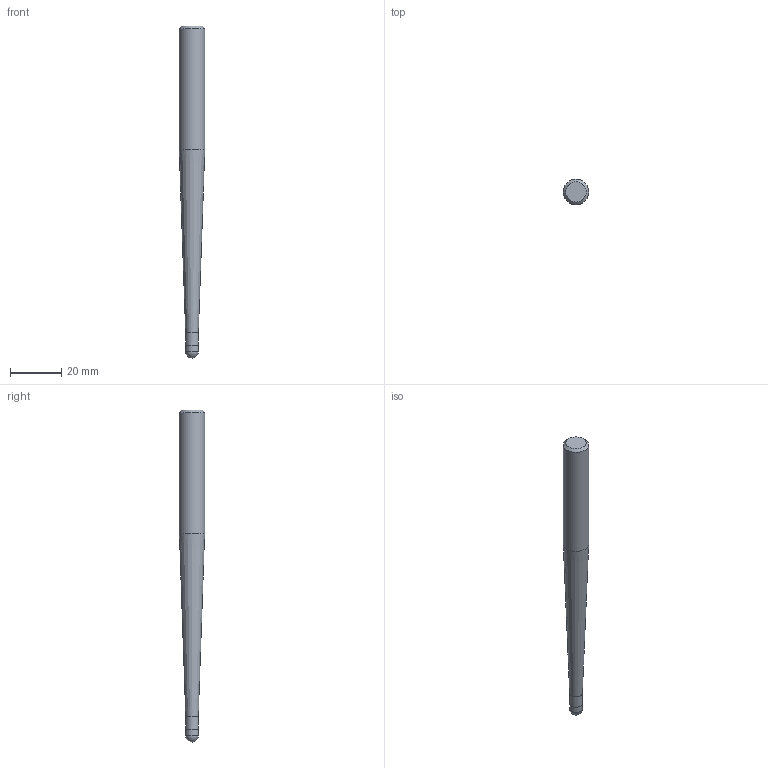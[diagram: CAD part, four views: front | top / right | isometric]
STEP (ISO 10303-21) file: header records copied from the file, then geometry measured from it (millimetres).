
FILE_DESCRIPTION((''),'2;1');
FILE_NAME('C:\Users\nsx150\AppData\Local\Temp\Mastercam 2021\SNAKH10GOD\TEMP.step','2021-10-21T13:33:54',(''),(''),'STEP Write','Mastercam 2021 ... CNC Software, Inc.','');
FILE_SCHEMA(('AUTOMOTIVE_DESIGN'));
Length unit declared in the file: millimetre
Products named in the file (1): None
Bounding box: 10 x 10 x 130 mm (x, y, z)
Volume: 7242 mm3; surface area: 3461.9 mm2
Topology: 2 solids, 2 shells, 9 faces, 14 edges, 8 vertices
Faces by surface type: plane 3, cylinder 3, cone 2, sphere 1
Full cylindrical faces by diameter (mm): 4.98 x1, 5 x1, 10 x1
Entity records: 211 total; most frequent: DIRECTION 36, CARTESIAN_POINT 25, AXIS2_PLACEMENT_3D 18, ORIENTED_EDGE 14, EDGE_LOOP 14, STYLED_ITEM 12, ADVANCED_FACE 9, FACE_BOUND 8
